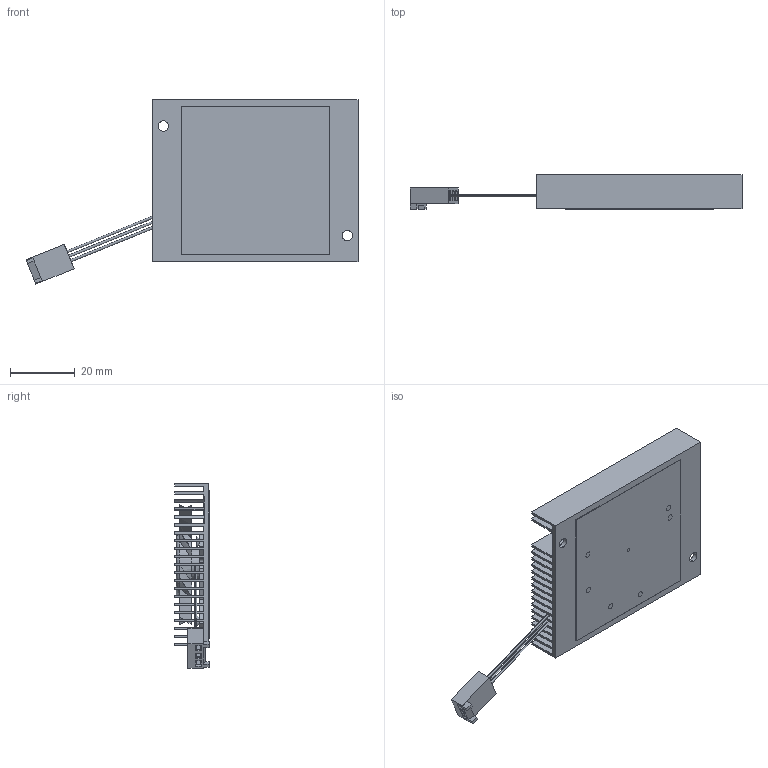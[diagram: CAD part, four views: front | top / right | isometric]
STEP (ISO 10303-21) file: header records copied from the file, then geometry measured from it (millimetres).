
FILE_DESCRIPTION (( 'STEP AP214' ), '1' );
FILE_NAME ('SZ12L (NONE).STEP', '2023-02-15T00:40:14', ( '' ), ( '' ), 'SwSTEP 2.0', 'SolidWorks 2020', '' );
FILE_SCHEMA (( 'AUTOMOTIVE_DESIGN' ));
Length unit declared in the file: inch
Products named in the file (1): SZ12L (NONE)
Bounding box: 102.52 x 10.7 x 56.92 mm (x, y, z)
Volume: 12121.9 mm3; surface area: 28785.1 mm2
Topology: 7 solids, 7 shells, 897 faces, 2452 edges, 1619 vertices
Faces by surface type: plane 535, bspline 194, cylinder 124, cone 42, torus 2
Entity records: 50890 total; most frequent: CARTESIAN_POINT 17967, ORIENTED_EDGE 4892, DIRECTION 3536, EDGE_CURVE 2446, VERTEX_POINT 1619, LINE 1524, VECTOR 1524, AXIS2_PLACEMENT_3D 1006
